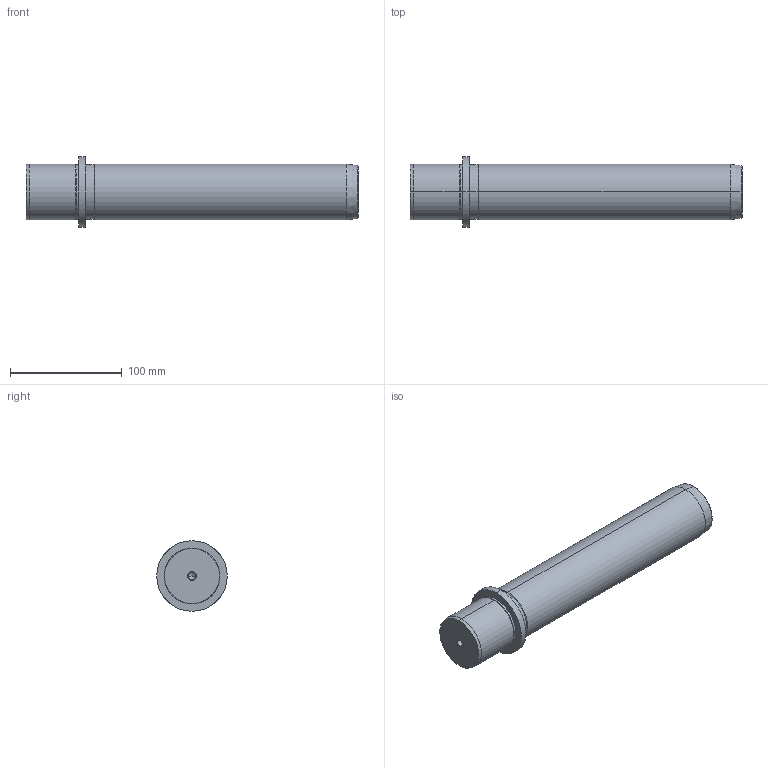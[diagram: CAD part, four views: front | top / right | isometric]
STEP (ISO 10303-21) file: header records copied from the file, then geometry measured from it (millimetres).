
FILE_DESCRIPTION(('CATIA V5 STEP Exchange'),'2;1');
FILE_NAME('C:\Users\Utente\Desktop\IO LAVORO\3D X SITO CF\X SITO\718\718-50x250.stp','2021-01-02T12:20:08+00:00',('none'),('none'),'CATIA Version 5 Release 20 GA (IN-10)','CATIA V5 STEP AP203','none');
FILE_SCHEMA(('CONFIG_CONTROL_DESIGN'));
Length unit declared in the file: millimetre
Products named in the file (1): 718-50x250
Bounding box: 297 x 63 x 63 mm (x, y, z)
Volume: 586215.2 mm3; surface area: 53936.1 mm2
Topology: 1 solids, 1 shells, 36 faces, 100 edges, 66 vertices
Faces by surface type: cone 16, cylinder 14, plane 4, torus 2
Entity records: 1291 total; most frequent: CARTESIAN_POINT 362, ORIENTED_EDGE 192, DIRECTION 157, EDGE_CURVE 96, AXIS2_PLACEMENT_3D 92, VERTEX_POINT 66, CIRCLE 55, EDGE_LOOP 40
